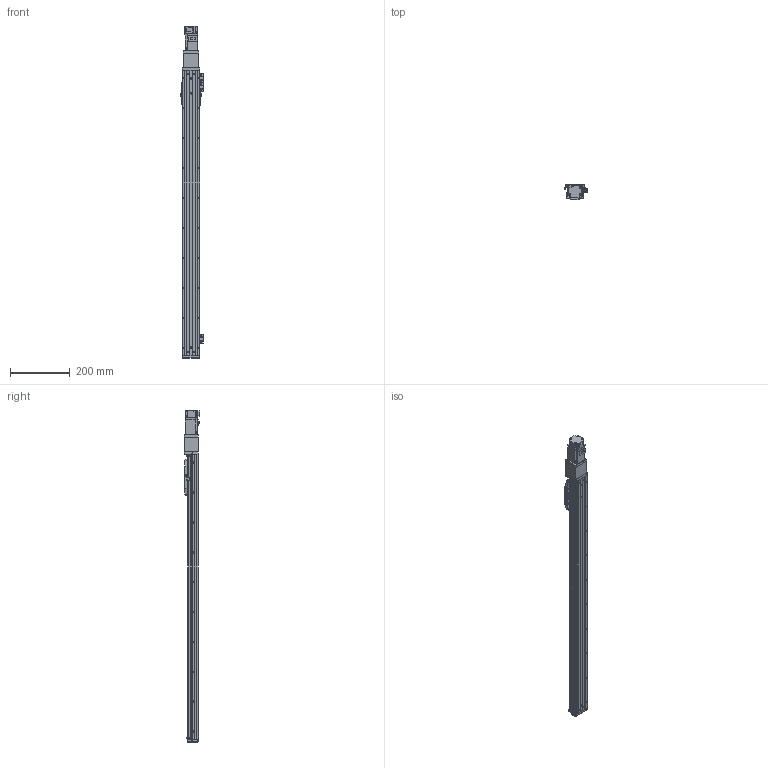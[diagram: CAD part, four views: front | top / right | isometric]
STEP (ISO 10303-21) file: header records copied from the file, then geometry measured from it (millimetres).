
FILE_DESCRIPTION (( 'STEP AP203' ), '1' );
FILE_NAME ('CTHA50-800-BC-M10-C4L.step', '2022-03-19T05:57:50', ( '微软用户' ), ( '微软中国' ), 'SwSTEP 2.0', 'SolidWorks 2020', '' );
FILE_SCHEMA (( 'CONFIG_CONTROL_DESIGN' ));
Length unit declared in the file: millimetre
Products named in the file (20): KTHA50-001_950; CTHA60-017; HG-KR13（三菱）; KTHA50-004; GBT 70.1-M4×12; GBT 70.3-M3℅6; KTHA50-005; CTHA60-016; CTHA50-002; GB¨uT 70.2-M3¡Á6_M3¡Á6; CTHA60-021; CTHA50-030; EE_SX911P_R; CTHA50-027; CTHA50-031; GBT77-2000 M3×3; CTHA50-006-2_CTHA60-006-2; CTHA50-800-BC-M10-C4L; GBT 70.1-M3℅6; CTHA50-013
Assembly tree (59 placements, depth 2):
  CTHA50-800-BC-M10-C4L
    KTHA50-001_950
    KTHA50-004
    KTHA50-005
    GB¨uT 70.2-M3¡Á6_M3¡Á6  x10
    EE_SX911P_R  x3
    GBT77-2000 M3×3  x6
    GBT 70.1-M3℅6  x6
    CTHA60-017  x3
    GBT 70.1-M4×12  x10
    CTHA60-016  x2
    CTHA60-021  x2
    CTHA50-027
    CTHA50-006-2_CTHA60-006-2
    CTHA50-013
    HG-KR13（三菱）
    GBT 70.3-M3℅6  x6
    CTHA50-002
    CTHA50-030  x2
    CTHA50-031
Bounding box: 74.12 x 53.3 x 1108.6 mm (x, y, z)
Volume: 1744494.7 mm3; surface area: 457835 mm2
Topology: 61 solids, 61 shells, 2496 faces, 5962 edges, 3654 vertices
Faces by surface type: plane 1438, cylinder 568, cone 370, torus 96, sphere 24
Entity records: 41928 total; most frequent: CARTESIAN_POINT 6787, DIRECTION 6740, ORIENTED_EDGE 6492, EDGE_CURVE 3246, VECTOR 2372, LINE 2372, AXIS2_PLACEMENT_3D 2184, VERTEX_POINT 2047
